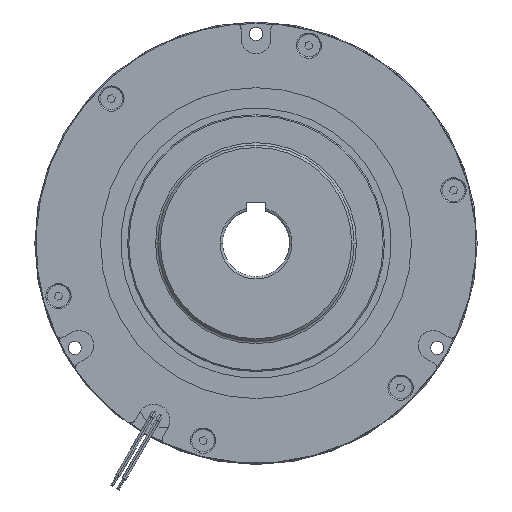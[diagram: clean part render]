
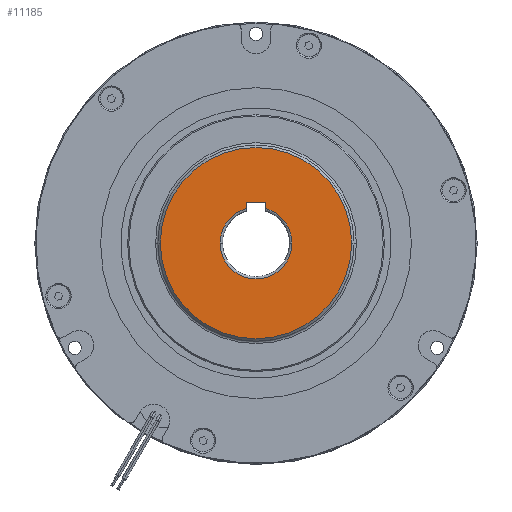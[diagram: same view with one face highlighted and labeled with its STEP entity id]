
A CAD part, top view. The second image highlights one B-rep face of the part: STEP entity #11185.
In plain terms, the highlighted planar face has unit normal (0, 0, 1).
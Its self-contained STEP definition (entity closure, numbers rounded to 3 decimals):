
#1234 = ORIENTED_EDGE ( 'NONE', *, *, #10745, .T. ) ;
#1236 = ORIENTED_EDGE ( 'NONE', *, *, #11478, .T. ) ;
#1238 = ORIENTED_EDGE ( 'NONE', *, *, #10759, .T. ) ;
#1239 = ORIENTED_EDGE ( 'NONE', *, *, #2934, .T. ) ;
#1241 = ORIENTED_EDGE ( 'NONE', *, *, #2677, .T. ) ;
#1243 = ORIENTED_EDGE ( 'NONE', *, *, #10751, .T. ) ;
#1245 = ORIENTED_EDGE ( 'NONE', *, *, #10752, .T. ) ;
#1247 = ORIENTED_EDGE ( 'NONE', *, *, #10757, .T. ) ;
#2008 = VERTEX_POINT ( 'NONE', #14680 ) ;
#2024 = VERTEX_POINT ( 'NONE', #14696 ) ;
#2032 = VERTEX_POINT ( 'NONE', #14704 ) ;
#2041 = VERTEX_POINT ( 'NONE', #14713 ) ;
#2126 = VERTEX_POINT ( 'NONE', #9134 ) ;
#2127 = VERTEX_POINT ( 'NONE', #9135 ) ;
#2186 = VERTEX_POINT ( 'NONE', #9194 ) ;
#2204 = VERTEX_POINT ( 'NONE', #9212 ) ;
#2677 = EDGE_CURVE ( 'NONE', #2041, #2008, #10240, .T. ) ;
#2934 = EDGE_CURVE ( 'NONE', #2126, #2041, #12734, .T. ) ;
#4750 = AXIS2_PLACEMENT_3D ( 'NONE', #6704, #6705, #6706 ) ;
#6178 = CIRCLE ( 'NONE', #4750, 40. ) ;
#6704 = CARTESIAN_POINT ( 'NONE',  ( 0., 0., 42.6 ) ) ;
#6705 = DIRECTION ( 'NONE',  ( 0., 0., 1. ) ) ;
#6706 = DIRECTION ( 'NONE',  ( -1., 0., 0. ) ) ;
#8955 = EDGE_LOOP ( 'NONE', ( #1234, #1236 ) ) ;
#8959 = EDGE_LOOP ( 'NONE', ( #1238, #1239, #1241, #1243, #1245, #1247 ) ) ;
#9134 = CARTESIAN_POINT ( 'NONE',  ( 4., 14.457, 42.6 ) ) ;
#9135 = CARTESIAN_POINT ( 'NONE',  ( -4., 17., 42.6 ) ) ;
#9194 = CARTESIAN_POINT ( 'NONE',  ( -40., 0., 42.6 ) ) ;
#9212 = CARTESIAN_POINT ( 'NONE',  ( 4., 17., 42.6 ) ) ;
#10240 = CIRCLE ( 'NONE', #12353, 15. ) ;
#10745 = EDGE_CURVE ( 'NONE', #2186, #2032, #19233, .T. ) ;
#10751 = EDGE_CURVE ( 'NONE', #2008, #2024, #19234, .T. ) ;
#10752 = EDGE_CURVE ( 'NONE', #2024, #2127, #19238, .T. ) ;
#10757 = EDGE_CURVE ( 'NONE', #2127, #2204, #19247, .T. ) ;
#10759 = EDGE_CURVE ( 'NONE', #2204, #2126, #19251, .T. ) ;
#11090 = CARTESIAN_POINT ( 'NONE',  ( 0., 0., 42.6 ) ) ;
#11091 = DIRECTION ( 'NONE',  ( 0., 0., -1. ) ) ;
#11092 = DIRECTION ( 'NONE',  ( -1., 0., 0. ) ) ;
#11185 = ADVANCED_FACE ( 'NONE', ( #19342, #19346 ), #18958, .F. ) ;
#11478 = EDGE_CURVE ( 'NONE', #2032, #2186, #6178, .T. ) ;
#12353 = AXIS2_PLACEMENT_3D ( 'NONE', #11090, #11091, #11092 ) ;
#12423 = AXIS2_PLACEMENT_3D ( 'NONE', #17874, #17876, #17878 ) ;
#12734 = CIRCLE ( 'NONE', #12423, 15. ) ;
#14348 = AXIS2_PLACEMENT_3D ( 'NONE', #18722, #18723, #18724 ) ;
#14352 = AXIS2_PLACEMENT_3D ( 'NONE', #18755, #18756, #18757 ) ;
#14436 = AXIS2_PLACEMENT_3D ( 'NONE', #18969, #18971, #18973 ) ;
#14680 = CARTESIAN_POINT ( 'NONE',  ( -15., 0., 42.6 ) ) ;
#14696 = CARTESIAN_POINT ( 'NONE',  ( -4., 14.457, 42.6 ) ) ;
#14704 = CARTESIAN_POINT ( 'NONE',  ( 40., 0., 42.6 ) ) ;
#14713 = CARTESIAN_POINT ( 'NONE',  ( 15., 0., 42.6 ) ) ;
#17874 = CARTESIAN_POINT ( 'NONE',  ( 0., 0., 42.6 ) ) ;
#17876 = DIRECTION ( 'NONE',  ( 0., 0., -1. ) ) ;
#17878 = DIRECTION ( 'NONE',  ( -1., 0., 0. ) ) ;
#18722 = CARTESIAN_POINT ( 'NONE',  ( 0., 0., 42.6 ) ) ;
#18723 = DIRECTION ( 'NONE',  ( 0., 0., 1. ) ) ;
#18724 = DIRECTION ( 'NONE',  ( -1., 0., 0. ) ) ;
#18746 = DIRECTION ( 'NONE',  ( 0., 1., 0. ) ) ;
#18747 = CARTESIAN_POINT ( 'NONE',  ( -4., 17., 42.6 ) ) ;
#18755 = CARTESIAN_POINT ( 'NONE',  ( 0., 0., 42.6 ) ) ;
#18756 = DIRECTION ( 'NONE',  ( 0., 0., -1. ) ) ;
#18757 = DIRECTION ( 'NONE',  ( -1., 0., 0. ) ) ;
#18765 = CARTESIAN_POINT ( 'NONE',  ( 4., 17., 42.6 ) ) ;
#18766 = DIRECTION ( 'NONE',  ( 1., 0., 0. ) ) ;
#18769 = CARTESIAN_POINT ( 'NONE',  ( 4., 17., 42.6 ) ) ;
#18770 = DIRECTION ( 'NONE',  ( 0., -1., 0. ) ) ;
#18958 = PLANE ( 'NONE',  #14436 ) ;
#18969 = CARTESIAN_POINT ( 'NONE',  ( 0., 0., 42.6 ) ) ;
#18971 = DIRECTION ( 'NONE',  ( 0., 0., -1. ) ) ;
#18973 = DIRECTION ( 'NONE',  ( -1., 0., 0. ) ) ;
#19233 = CIRCLE ( 'NONE', #14348, 40. ) ;
#19234 = CIRCLE ( 'NONE', #14352, 15. ) ;
#19238 = LINE ( 'NONE', #18747, #19240 ) ;
#19240 = VECTOR ( 'NONE', #18746, 1000. ) ;
#19247 = LINE ( 'NONE', #18765, #19250 ) ;
#19250 = VECTOR ( 'NONE', #18766, 1000. ) ;
#19251 = LINE ( 'NONE', #18769, #19254 ) ;
#19254 = VECTOR ( 'NONE', #18770, 1000. ) ;
#19342 = FACE_OUTER_BOUND ( 'NONE', #8955, .T. ) ;
#19346 = FACE_BOUND ( 'NONE', #8959, .T. ) ;
